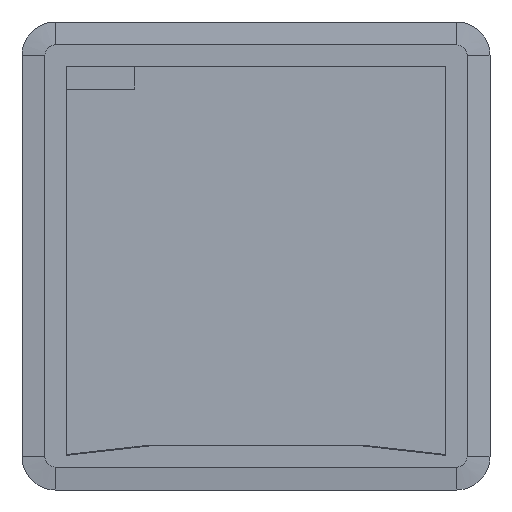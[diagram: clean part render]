
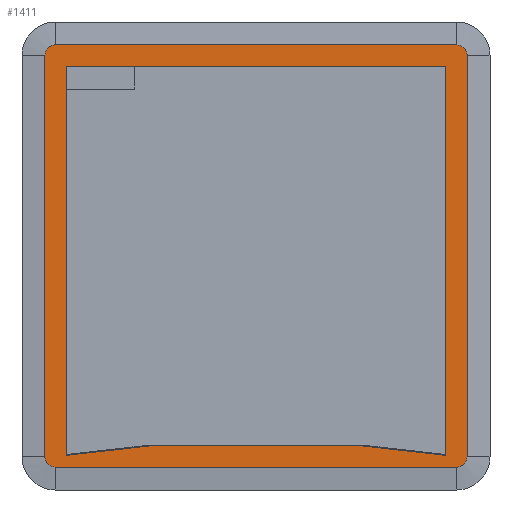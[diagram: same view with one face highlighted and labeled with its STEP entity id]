
A CAD part, front view. The second image highlights one B-rep face of the part: STEP entity #1411.
In plain terms, the highlighted planar face has unit normal (0, -1, 0).
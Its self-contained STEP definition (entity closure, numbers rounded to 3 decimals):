
#143=FACE_BOUND('',#4156,.T.);
#1411=ADVANCED_FACE('',(#2734,#143),#22405,.T.);
#2734=FACE_OUTER_BOUND('',#4155,.T.);
#4155=EDGE_LOOP('',(#11006,#11007,#11008,#11009,#11010,#11011,#11012,#11013));
#4156=EDGE_LOOP('',(#11014,#11015,#11016,#11017,#11018,#11019));
#11006=ORIENTED_EDGE('',*,*,#14887,.F.);
#11007=ORIENTED_EDGE('',*,*,#14890,.F.);
#11008=ORIENTED_EDGE('',*,*,#14893,.F.);
#11009=ORIENTED_EDGE('',*,*,#14896,.F.);
#11010=ORIENTED_EDGE('',*,*,#14899,.F.);
#11011=ORIENTED_EDGE('',*,*,#14918,.F.);
#11012=ORIENTED_EDGE('',*,*,#14880,.F.);
#11013=ORIENTED_EDGE('',*,*,#14884,.F.);
#11014=ORIENTED_EDGE('',*,*,#14868,.F.);
#11015=ORIENTED_EDGE('',*,*,#14866,.F.);
#11016=ORIENTED_EDGE('',*,*,#14864,.T.);
#11017=ORIENTED_EDGE('',*,*,#14869,.F.);
#11018=ORIENTED_EDGE('',*,*,#14870,.F.);
#11019=ORIENTED_EDGE('',*,*,#14867,.T.);
#14864=EDGE_CURVE('',#20998,#20997,#18592,.T.);
#14866=EDGE_CURVE('',#20998,#20999,#18594,.T.);
#14867=EDGE_CURVE('',#21001,#21000,#18595,.T.);
#14868=EDGE_CURVE('',#20999,#21000,#18596,.T.);
#14869=EDGE_CURVE('',#21003,#20997,#18597,.T.);
#14870=EDGE_CURVE('',#21001,#21003,#18598,.T.);
#14880=EDGE_CURVE('',#21005,#21004,#18608,.T.);
#14884=EDGE_CURVE('',#21002,#21005,#15825,.T.);
#14887=EDGE_CURVE('',#21009,#21002,#18613,.T.);
#14890=EDGE_CURVE('',#21011,#21009,#15827,.T.);
#14893=EDGE_CURVE('',#21013,#21011,#18617,.T.);
#14896=EDGE_CURVE('',#21015,#21013,#15829,.T.);
#14899=EDGE_CURVE('',#21017,#21015,#18621,.T.);
#14918=EDGE_CURVE('',#21004,#21017,#15835,.T.);
#15825=(
BOUNDED_CURVE()
B_SPLINE_CURVE(2,(#72417,#72418,#72419),.UNSPECIFIED.,.F.,.F.)
B_SPLINE_CURVE_WITH_KNOTS((3,3),(-7.069,0.),.UNSPECIFIED.)
CURVE()
GEOMETRIC_REPRESENTATION_ITEM()
RATIONAL_B_SPLINE_CURVE((1.,0.707,1.))
REPRESENTATION_ITEM('')
);
#15827=(
BOUNDED_CURVE()
B_SPLINE_CURVE(2,(#72431,#72432,#72433),.UNSPECIFIED.,.F.,.F.)
B_SPLINE_CURVE_WITH_KNOTS((3,3),(-7.069,0.),.UNSPECIFIED.)
CURVE()
GEOMETRIC_REPRESENTATION_ITEM()
RATIONAL_B_SPLINE_CURVE((1.,0.707,1.))
REPRESENTATION_ITEM('')
);
#15829=(
BOUNDED_CURVE()
B_SPLINE_CURVE(2,(#72445,#72446,#72447),.UNSPECIFIED.,.F.,.F.)
B_SPLINE_CURVE_WITH_KNOTS((3,3),(-7.069,0.),.UNSPECIFIED.)
CURVE()
GEOMETRIC_REPRESENTATION_ITEM()
RATIONAL_B_SPLINE_CURVE((1.,0.707,1.))
REPRESENTATION_ITEM('')
);
#15835=(
BOUNDED_CURVE()
B_SPLINE_CURVE(2,(#72495,#72496,#72497),.UNSPECIFIED.,.F.,.F.)
B_SPLINE_CURVE_WITH_KNOTS((3,3),(-7.069,0.),.UNSPECIFIED.)
CURVE()
GEOMETRIC_REPRESENTATION_ITEM()
RATIONAL_B_SPLINE_CURVE((1.,0.707,1.))
REPRESENTATION_ITEM('')
);
#18592=B_SPLINE_CURVE_WITH_KNOTS('',1,(#72299,#72300),.UNSPECIFIED.,.F.,
 .F.,(2,2),(-165.5,0.),.UNSPECIFIED.);
#18594=B_SPLINE_CURVE_WITH_KNOTS('',1,(#72303,#72304),.UNSPECIFIED.,.F.,
 .F.,(2,2),(0.,169.649),.UNSPECIFIED.);
#18595=B_SPLINE_CURVE_WITH_KNOTS('',1,(#72305,#72306),.UNSPECIFIED.,.F.,
 .F.,(2,2),(-92.062,0.),.UNSPECIFIED.);
#18596=B_SPLINE_CURVE_WITH_KNOTS('',1,(#72307,#72308),.UNSPECIFIED.,.F.,
 .F.,(2,2),(0.,36.953),.UNSPECIFIED.);
#18597=B_SPLINE_CURVE_WITH_KNOTS('',1,(#72309,#72310),.UNSPECIFIED.,.F.,
 .F.,(2,2),(0.,169.649),.UNSPECIFIED.);
#18598=B_SPLINE_CURVE_WITH_KNOTS('',1,(#72311,#72312),.UNSPECIFIED.,.F.,
 .F.,(2,2),(-36.953,0.),.UNSPECIFIED.);
#18608=B_SPLINE_CURVE_WITH_KNOTS('',1,(#72409,#72410),.UNSPECIFIED.,.F.,
 .F.,(2,2),(-175.,0.),.UNSPECIFIED.);
#18613=B_SPLINE_CURVE_WITH_KNOTS('',1,(#72425,#72426),.UNSPECIFIED.,.F.,
 .F.,(2,2),(-175.,0.),.UNSPECIFIED.);
#18617=B_SPLINE_CURVE_WITH_KNOTS('',1,(#72439,#72440),.UNSPECIFIED.,.F.,
 .F.,(2,2),(-175.,0.),.UNSPECIFIED.);
#18621=B_SPLINE_CURVE_WITH_KNOTS('',1,(#72453,#72454),.UNSPECIFIED.,.F.,
 .F.,(2,2),(-175.,0.),.UNSPECIFIED.);
#20997=VERTEX_POINT('',#72227);
#20998=VERTEX_POINT('',#72228);
#20999=VERTEX_POINT('',#72229);
#21000=VERTEX_POINT('',#72230);
#21001=VERTEX_POINT('',#72231);
#21002=VERTEX_POINT('',#72232);
#21003=VERTEX_POINT('',#72233);
#21004=VERTEX_POINT('',#72234);
#21005=VERTEX_POINT('',#72235);
#21009=VERTEX_POINT('',#72239);
#21011=VERTEX_POINT('',#72241);
#21013=VERTEX_POINT('',#72243);
#21015=VERTEX_POINT('',#72245);
#21017=VERTEX_POINT('',#72247);
#22405=PLANE('',#23469);
#23469=AXIS2_PLACEMENT_3D('',#71946,#24449,$);
#24449=DIRECTION('',(0.,-1.,0.));
#71946=CARTESIAN_POINT('',(-110.4,-27.5,110.4));
#72227=CARTESIAN_POINT('',(82.75,-27.5,82.75));
#72228=CARTESIAN_POINT('',(-82.75,-27.5,82.75));
#72229=CARTESIAN_POINT('',(-82.75,-27.5,-86.899));
#72230=CARTESIAN_POINT('',(-46.031,-27.5,-82.75));
#72231=CARTESIAN_POINT('',(46.031,-27.5,-82.75));
#72232=CARTESIAN_POINT('',(-92.,-27.5,87.5));
#72233=CARTESIAN_POINT('',(82.75,-27.5,-86.899));
#72234=CARTESIAN_POINT('',(87.5,-27.5,92.));
#72235=CARTESIAN_POINT('',(-87.5,-27.5,92.));
#72239=CARTESIAN_POINT('',(-92.,-27.5,-87.5));
#72241=CARTESIAN_POINT('',(-87.5,-27.5,-92.));
#72243=CARTESIAN_POINT('',(87.5,-27.5,-92.));
#72245=CARTESIAN_POINT('',(92.,-27.5,-87.5));
#72247=CARTESIAN_POINT('',(92.,-27.5,87.5));
#72299=CARTESIAN_POINT('',(-82.75,-27.5,82.75));
#72300=CARTESIAN_POINT('',(82.75,-27.5,82.75));
#72303=CARTESIAN_POINT('',(-82.75,-27.5,82.75));
#72304=CARTESIAN_POINT('',(-82.75,-27.5,-86.899));
#72305=CARTESIAN_POINT('',(46.031,-27.5,-82.75));
#72306=CARTESIAN_POINT('',(-46.031,-27.5,-82.75));
#72307=CARTESIAN_POINT('',(-82.75,-27.5,-86.899));
#72308=CARTESIAN_POINT('',(-46.031,-27.5,-82.75));
#72309=CARTESIAN_POINT('',(82.75,-27.5,-86.899));
#72310=CARTESIAN_POINT('',(82.75,-27.5,82.75));
#72311=CARTESIAN_POINT('',(46.031,-27.5,-82.75));
#72312=CARTESIAN_POINT('',(82.75,-27.5,-86.899));
#72409=CARTESIAN_POINT('',(-87.5,-27.5,92.));
#72410=CARTESIAN_POINT('',(87.5,-27.5,92.));
#72417=CARTESIAN_POINT('',(-92.,-27.5,87.5));
#72418=CARTESIAN_POINT('',(-92.,-27.5,92.));
#72419=CARTESIAN_POINT('',(-87.5,-27.5,92.));
#72425=CARTESIAN_POINT('',(-92.,-27.5,-87.5));
#72426=CARTESIAN_POINT('',(-92.,-27.5,87.5));
#72431=CARTESIAN_POINT('',(-87.5,-27.5,-92.));
#72432=CARTESIAN_POINT('',(-92.,-27.5,-92.));
#72433=CARTESIAN_POINT('',(-92.,-27.5,-87.5));
#72439=CARTESIAN_POINT('',(87.5,-27.5,-92.));
#72440=CARTESIAN_POINT('',(-87.5,-27.5,-92.));
#72445=CARTESIAN_POINT('',(92.,-27.5,-87.5));
#72446=CARTESIAN_POINT('',(92.,-27.5,-92.));
#72447=CARTESIAN_POINT('',(87.5,-27.5,-92.));
#72453=CARTESIAN_POINT('',(92.,-27.5,87.5));
#72454=CARTESIAN_POINT('',(92.,-27.5,-87.5));
#72495=CARTESIAN_POINT('',(87.5,-27.5,92.));
#72496=CARTESIAN_POINT('',(92.,-27.5,92.));
#72497=CARTESIAN_POINT('',(92.,-27.5,87.5));
